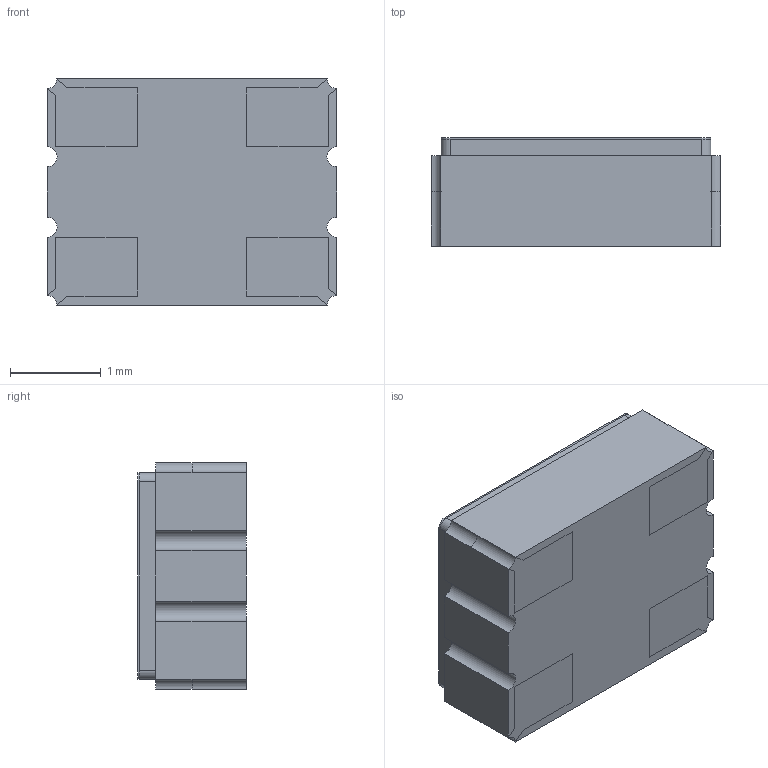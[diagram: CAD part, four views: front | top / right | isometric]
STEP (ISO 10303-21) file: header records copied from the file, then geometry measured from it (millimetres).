
FILE_DESCRIPTION (( 'STEP AP214' ), '1' );
FILE_NAME ('ABRACON ATX-H11-F-25.000MHz-F25-T.STEP', '2024-04-15T16:51:58', ( '' ), ( '' ), 'SwSTEP 2.0', 'SolidWorks 2020', '' );
FILE_SCHEMA (( 'AUTOMOTIVE_DESIGN' ));
Length unit declared in the file: millimetre
Products named in the file (1): ABRACON ATX-H11-F-25.000MHz-F25-T
Bounding box: 3.2 x 1.2 x 2.5 mm (x, y, z)
Volume: 9.2 mm3; surface area: 63.1 mm2
Topology: 6 solids, 6 shells, 106 faces, 270 edges, 176 vertices
Faces by surface type: plane 84, cylinder 22
Entity records: 3854 total; most frequent: CARTESIAN_POINT 553, ORIENTED_EDGE 540, DIRECTION 532, EDGE_CURVE 270, LINE 222, VECTOR 222, VERTEX_POINT 176, AXIS2_PLACEMENT_3D 155
